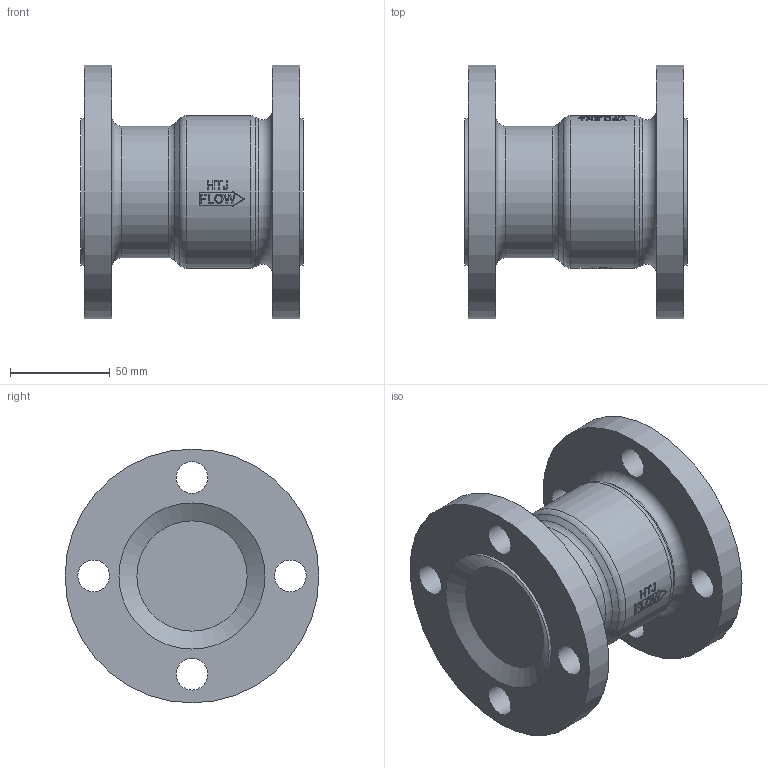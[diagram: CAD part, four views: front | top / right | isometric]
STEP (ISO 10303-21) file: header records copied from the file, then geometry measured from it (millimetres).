
FILE_DESCRIPTION( ( 'Unknown' ), '1' );
FILE_NAME( 'Y:/ENGR/3D Solid Edge Models/HT/HT-PRT/HTJ.stp', 'Unknown', ( 'Unknown' ), ( 'Unknown' ), 'PSStep 14.0', 'Unknown', ' ' );
FILE_SCHEMA( ( 'AUTOMOTIVE_DESIGN { 1 0 10303 214 1 1 1 1 }' ) );
Length unit declared in the file: inch
Products named in the file (1): 1
Bounding box: 111.25 x 127 x 127 mm (x, y, z)
Volume: 632160 mm3; surface area: 76980.5 mm2
Topology: 1 solids, 1 shells, 411 faces, 1066 edges, 710 vertices
Faces by surface type: plane 250, bspline 90, cylinder 63, torus 5, cone 3
Full cylindrical faces by diameter (mm): 15.875 x8, 58.42 x1, 65.913 x1, 73.152 x2, 76.327 x1, 127 x2
Entity records: 21463 total; most frequent: CARTESIAN_POINT 10411, ORIENTED_EDGE 2064, EDGE_CURVE 1032, B_SPLINE_CURVE_WITH_KNOTS 995, DIRECTION 718, VERTEX_POINT 703, EDGE_LOOP 507, FACE_OUTER_BOUND 435
